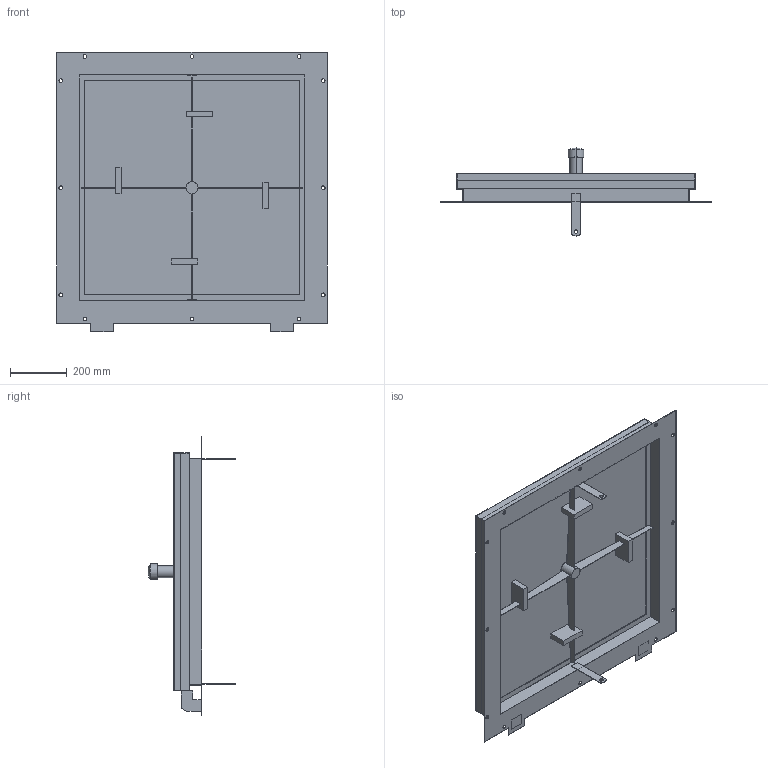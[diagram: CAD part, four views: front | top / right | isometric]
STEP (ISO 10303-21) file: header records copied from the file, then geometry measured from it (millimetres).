
FILE_DESCRIPTION((''),'2;1');
FILE_NAME('017_000112','2017-08-01T',('set'),('HUBER SE'),'PRO/ENGINEER BY PARAMETRIC TECHNOLOGY CORPORATION, 2015280','PRO/ENGINEER BY PARAMETRIC TECHNOLOGY CORPORATION, 2015280','');
FILE_SCHEMA(('CONFIG_CONTROL_DESIGN'));
Length unit declared in the file: millimetre
Products named in the file (1): 017_000112
Bounding box: 955 x 310 x 985 mm (x, y, z)
Volume: 4895017.4 mm3; surface area: 4423608.6 mm2
Topology: 1 solids, 2 shells, 178 faces, 589 edges, 458 vertices
Faces by surface type: plane 136, cylinder 40, sphere 2
Entity records: 6247 total; most frequent: CARTESIAN_POINT 1210, DIRECTION 984, ORIENTED_EDGE 912, VECTOR 458, LINE 458, EDGE_CURVE 456, VERTEX_POINT 301, AXIS2_PLACEMENT_3D 263
